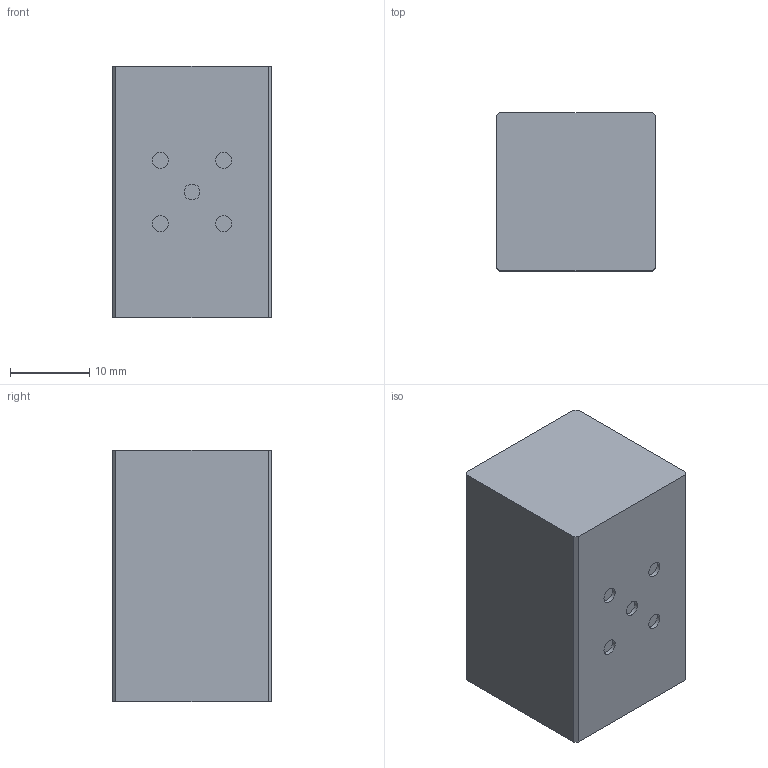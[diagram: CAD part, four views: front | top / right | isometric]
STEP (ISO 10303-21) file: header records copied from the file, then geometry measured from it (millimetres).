
FILE_DESCRIPTION(('Open CASCADE Model'),'2;1');
FILE_NAME('Open CASCADE Shape Model','2026-08-23T08:04:38',('Author'),( 'Open CASCADE'),'Open CASCADE STEP processor 7.9','Open CASCADE 7.9' ,'Unknown');
FILE_SCHEMA(('AUTOMOTIVE_DESIGN { 1 0 10303 214 1 1 1 1 }'));
Length unit declared in the file: millimetre
Products named in the file (2): =>[0:1:1:2]; COMPOUND
Assembly tree (1 placements, depth 2):
  =>[0:1:1:2]
    COMPOUND
Bounding box: 20 x 20 x 31.75 mm (x, y, z)
Volume: 12682 mm3; surface area: 3325.3 mm2
Topology: 1 solids, 1 shells, 20 faces, 39 edges, 26 vertices
Faces by surface type: plane 15, cylinder 5
Full cylindrical faces by diameter (mm): 2 x5
Entity records: 1079 total; most frequent: CARTESIAN_POINT 195, DIRECTION 166, LINE 97, VECTOR 97, ORIENTED_EDGE 78, PCURVE 78, DEFINITIONAL_REPRESENTATION 78, EDGE_CURVE 39
